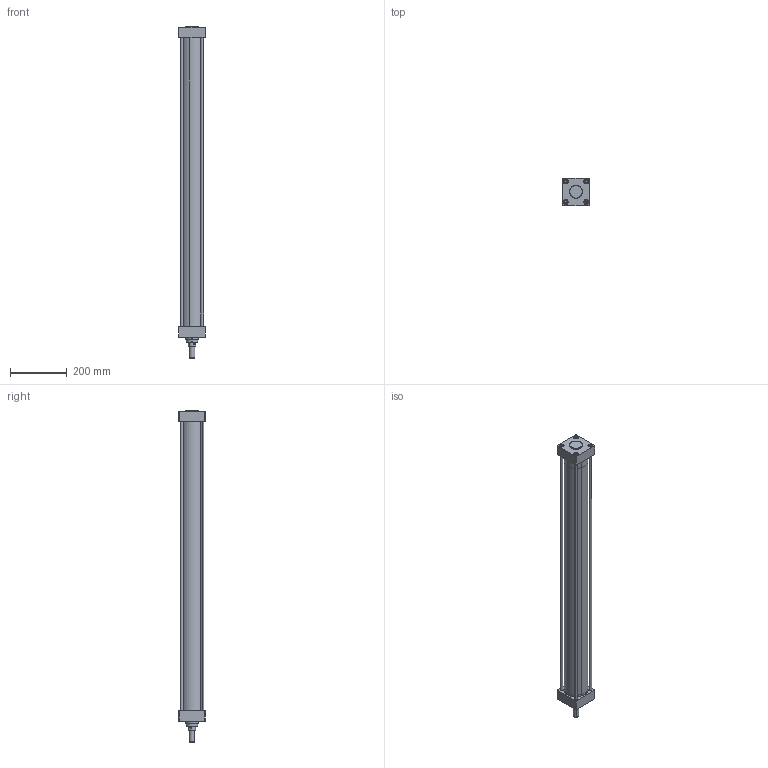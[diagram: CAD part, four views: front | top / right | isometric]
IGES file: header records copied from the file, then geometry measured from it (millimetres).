
Start section: SolidWorks IGES file using analytic representation for surfaces
Global section: file name: D:\ARICA 3D ÇÝZÝMLER\3D IGES\SC-CR-S KROM SERÝSÝ\SC-CR-S 80\SC-CR-S-80X980-CYLINDER.IGS; native system: SolidWorks 2013; preprocessor: SolidWorks 2013; author: user; date: 161031.163510; units: millimetre
Bounding box: 95 x 94 x 1171 mm (x, y, z)
Surface area: 888239.2 mm2 (no closed solid volume)
Topology: 0 solids, 0 shells, 439 faces, 7802 edges, 7800 vertices
Faces by surface type: revolution 281, bspline 158
